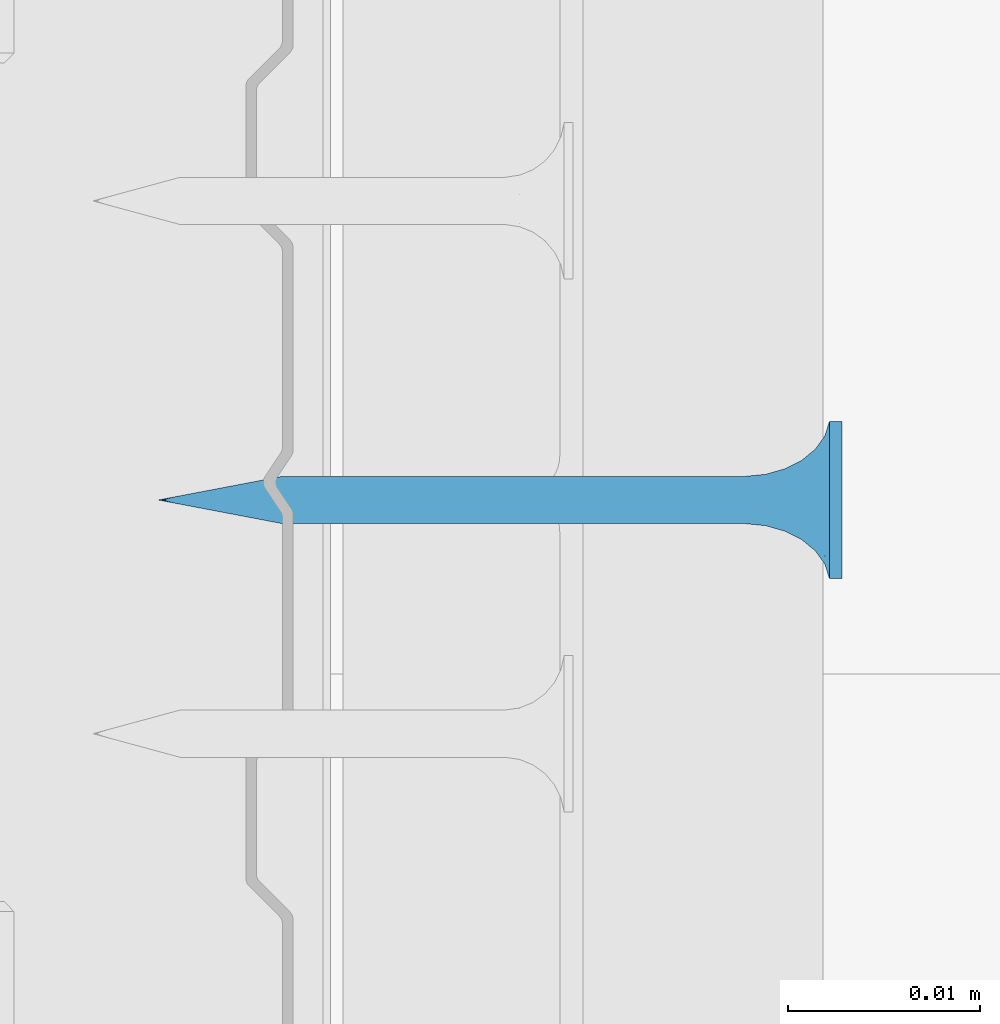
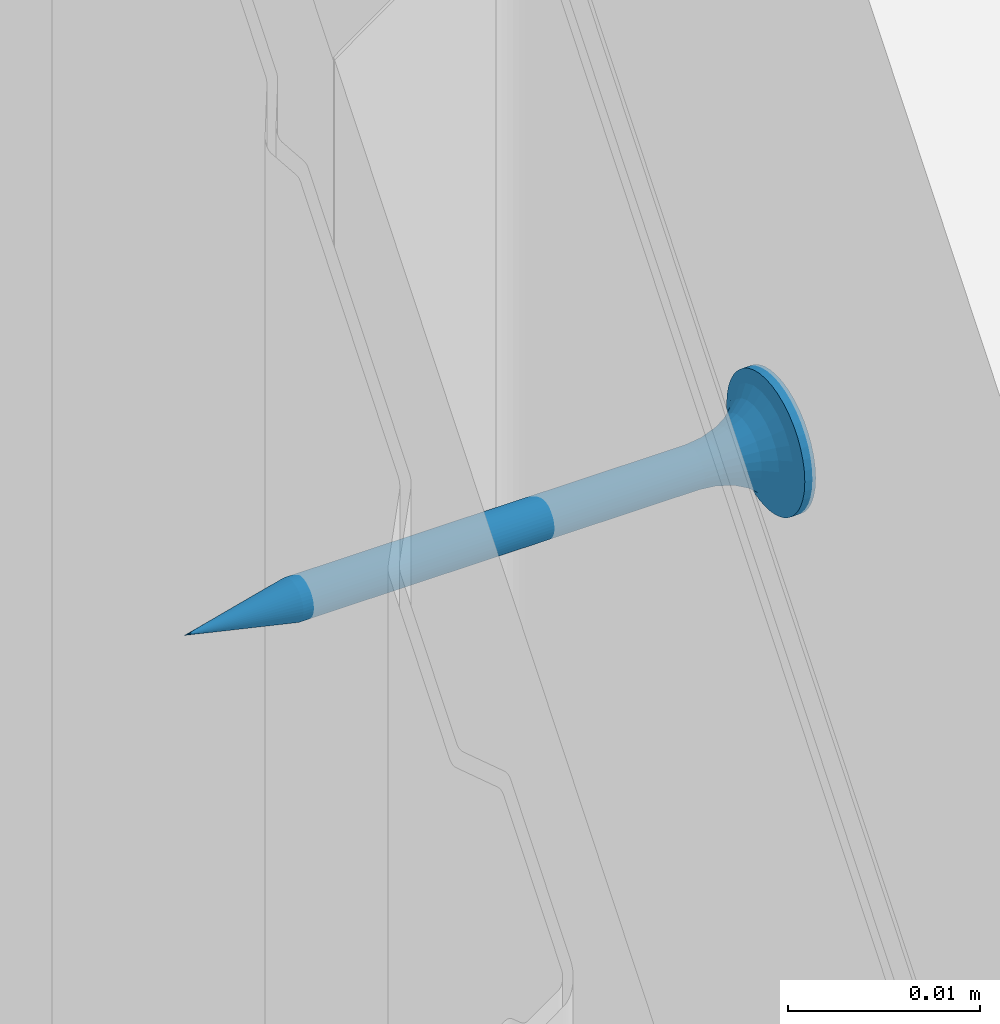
# One storey, part 52 of 62: 1 wall.
"""IFC2X3 building model written with IfcOpenShell, lengths in millimetres."""

from ifc_helpers import new_model, si_unit, frame, origin_with_axes, place, context, subcontext, project, spatial, faceted_brep, material, type_object, element, save


model = new_model("IFC2X3")

# Units and contexts
model_context = context("Model", 3, world=origin_with_axes())
body_context = subcontext(model_context, "Body", "Model", "MODEL_VIEW")
ifc_project = project(units=[si_unit("LENGTHUNIT", "METRE", prefix="MILLI"), si_unit("AREAUNIT", "SQUARE_METRE"), si_unit("VOLUMEUNIT", "CUBIC_METRE")], contexts=[model_context])

# Site, building, storey
site_placement = place(None, frame((2152.14102611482, -2015.0250894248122, 57.61556563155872), z_axis=(0.0, 0.0, 1.0), x_axis=(-1.1102230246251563e-16, 1.0, 0.0)))
site = spatial("IfcSite", under=ifc_project, at=site_placement, Name="Default Site", CompositionType="ELEMENT")
building_placement = place(site_placement, origin_with_axes())
building = spatial("IfcBuilding", under=site, at=building_placement, Name="Default Building", CompositionType="ELEMENT")
storey_placement = place(building_placement, origin_with_axes())
storey = spatial("IfcBuildingStorey", under=building, at=storey_placement, Name="Default Building Storey", CompositionType="ELEMENT", Elevation=57.61556563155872)

# Wall
ifc_material = material(Name="Default")
wall_type = type_object("IfcWallType", Name="Wkręt RIGIPS TN 35#31", PredefinedType="NOTDEFINED")
wall_placement = place(storey_placement, frame((3574.5747826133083, 6748.439791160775, -396.93788946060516), z_axis=(0.0, 0.0, 1.0), x_axis=(1.0, 0.0, 0.0)))
element("IfcWall", 1, at=wall_placement, inside=storey, type_object=wall_type, material=ifc_material, Name="Wkręt RIGIPS TN 35", context=body_context, shape_type="Brep", body=[
    faceted_brep([(-141.48753293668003, -4832.598052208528, 555.1619773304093), (-141.48753293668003, -4833.259714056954, 555.1619773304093), (-141.5377465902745, -4833.259714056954, 555.8000000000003), (-141.5377465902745, -4832.598052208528, 555.8000000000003), (-141.33812900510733, -4832.598052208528, 554.5396649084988), (-141.33812900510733, -4833.259714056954, 554.5396649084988), (-141.09321328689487, -4832.598052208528, 553.948386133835), (-141.09321328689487, -4833.259714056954, 553.948386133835), (-140.75881656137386, -4832.598052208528, 553.4027002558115), (-140.75881656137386, -4833.259714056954, 553.4027002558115), (-140.34317265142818, -4833.259714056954, 552.9160436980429), (-140.45417279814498, -4832.598052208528, 553.0314906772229), (-139.8565160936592, -4833.259714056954, 552.5003997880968), (-140.1080097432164, -4832.598052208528, 552.6986613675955), (-139.72512626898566, -4832.598052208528, 552.4088260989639), (-139.31083021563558, -4833.259714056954, 552.1660030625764), (-139.31083021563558, -4832.598052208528, 552.1660030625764), (-138.71955144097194, -4833.259714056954, 551.9210873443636), (-138.87086516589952, -4832.598052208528, 551.9735585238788), (-138.41133029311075, -4832.598052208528, 551.8341602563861), (-138.0972390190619, -4833.259714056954, 551.7716834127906), (-137.9385961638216, -4832.598052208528, 551.7497405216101), (-137.45921634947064, -4833.259714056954, 551.7214697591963), (-137.45921634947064, -4832.598052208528, 551.7214697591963), (-136.82119367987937, -4832.598052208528, 551.7716834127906), (-136.82119367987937, -4833.259714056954, 551.7716834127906), (-136.19888125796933, -4832.598052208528, 551.9210873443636), (-136.19888125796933, -4833.259714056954, 551.9210873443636), (-135.6076024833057, -4832.598052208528, 552.1660030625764), (-135.6076024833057, -4833.259714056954, 552.1660030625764), (-135.06191660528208, -4832.598052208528, 552.5003997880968), (-135.06191660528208, -4833.259714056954, 552.5003997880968), (-134.57526004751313, -4832.598052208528, 552.9160436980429), (-134.57526004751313, -4833.259714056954, 552.9160436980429), (-134.1596161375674, -4832.598052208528, 553.4027002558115), (-134.1596161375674, -4833.259714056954, 553.4027002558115), (-133.8252194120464, -4832.598052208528, 553.948386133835), (-133.8252194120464, -4833.259714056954, 553.948386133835), (-133.58030369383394, -4832.598052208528, 554.5396649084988), (-133.58030369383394, -4833.259714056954, 554.5396649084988), (-133.3806861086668, -4833.259714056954, 555.8000000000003), (-133.3806861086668, -4832.598052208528, 555.8000000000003), (-133.43089976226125, -4832.598052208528, 556.4380226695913), (-133.43089976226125, -4833.259714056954, 556.4380226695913), (-133.43089976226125, -4833.259714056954, 555.1619773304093), (-133.43089976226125, -4832.598052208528, 555.1619773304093), (-133.58030369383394, -4832.598052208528, 557.0603350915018), (-133.58030369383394, -4833.259714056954, 557.0603350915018), (-133.8252194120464, -4832.598052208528, 557.6516138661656), (-133.8252194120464, -4833.259714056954, 557.6516138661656), (-134.1596161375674, -4832.598052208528, 558.1972997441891), (-134.1596161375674, -4833.259714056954, 558.1972997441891), (-134.57526004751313, -4832.598052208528, 558.6839563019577), (-134.57526004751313, -4833.259714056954, 558.6839563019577), (-135.06191660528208, -4832.598052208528, 559.0996002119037), (-135.06191660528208, -4833.259714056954, 559.0996002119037), (-135.6076024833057, -4832.598052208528, 559.4339969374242), (-135.6076024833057, -4833.259714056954, 559.4339969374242), (-136.19888125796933, -4832.598052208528, 559.678912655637), (-136.19888125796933, -4833.259714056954, 559.678912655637), (-136.82119367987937, -4832.598052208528, 559.82831658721), (-136.82119367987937, -4833.259714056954, 559.82831658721), (-137.45921634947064, -4832.598052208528, 559.8785302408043), (-137.45921634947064, -4833.259714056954, 559.8785302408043), (-138.0972390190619, -4832.598052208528, 559.82831658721), (-138.0972390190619, -4833.259714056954, 559.82831658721), (-138.71955144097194, -4832.598052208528, 559.678912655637), (-138.71955144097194, -4833.259714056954, 559.678912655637), (-139.31083021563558, -4832.598052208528, 559.4339969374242), (-139.31083021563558, -4833.259714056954, 559.4339969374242), (-139.8565160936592, -4832.598052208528, 559.0996002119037), (-139.8565160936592, -4833.259714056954, 559.0996002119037), (-140.34317265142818, -4832.598052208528, 558.6839563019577), (-140.34317265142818, -4833.259714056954, 558.6839563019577), (-140.75881656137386, -4832.598052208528, 558.1972997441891), (-140.75881656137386, -4833.259714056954, 558.1972997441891), (-141.09321328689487, -4832.598052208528, 557.6516138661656), (-141.09321328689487, -4833.259714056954, 557.6516138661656), (-141.33812900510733, -4832.598052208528, 557.0603350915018), (-141.33812900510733, -4833.259714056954, 557.0603350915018), (-141.48753293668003, -4832.598052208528, 556.4380226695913), (-141.48753293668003, -4833.259714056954, 556.4380226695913), (-137.65172779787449, -4828.2062944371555, 554.5845305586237), (-137.45921634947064, -4828.2062944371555, 554.5693795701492), (-137.8060615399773, -4829.281368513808, 554.5055561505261), (-137.45921634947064, -4829.281368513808, 554.4598930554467), (-137.83949898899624, -4828.2062944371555, 554.6296104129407), (-138.12926982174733, -4829.281368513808, 554.6394333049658), (-138.01790634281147, -4828.2062944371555, 554.7035091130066), (-138.1825568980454, -4828.2062944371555, 554.8044072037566), (-138.40681506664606, -4829.281368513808, 554.8524012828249), (-138.3293964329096, -4828.2062944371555, 554.9298199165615), (-138.45480914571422, -4828.2062944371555, 555.0766594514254), (-138.6197830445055, -4829.281368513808, 555.1299465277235), (-138.5557072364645, -4828.2062944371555, 555.2413100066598), (-138.753660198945, -4829.281368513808, 555.4531548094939), (-138.62960593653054, -4828.2062944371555, 555.4197173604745), (-138.67468579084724, -4828.2062944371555, 555.6074885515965), (-138.79932329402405, -4829.281368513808, 555.7999999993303), (-138.68983677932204, -4828.2062944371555, 555.8000000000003), (-138.67468579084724, -4828.2062944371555, 555.9925114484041), (-138.753660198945, -4829.281368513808, 556.1468451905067), (-138.62960593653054, -4828.2062944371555, 556.1802826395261), (-138.6197830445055, -4829.281368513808, 556.4700534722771), (-138.5557072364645, -4828.2062944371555, 556.3586899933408), (-138.45480914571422, -4828.2062944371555, 556.5233405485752), (-138.40681506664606, -4829.281368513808, 556.7475987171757), (-138.3293964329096, -4828.2062944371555, 556.670180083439), (-138.1825568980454, -4828.2062944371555, 556.795592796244), (-138.12926982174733, -4829.281368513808, 556.9605666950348), (-138.01790634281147, -4828.2062944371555, 556.896490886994), (-137.8060615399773, -4829.281368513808, 557.0944438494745), (-137.83949898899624, -4828.2062944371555, 556.9703895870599), (-137.65172779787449, -4828.2062944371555, 557.0154694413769), (-137.45921634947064, -4829.281368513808, 557.1401069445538), (-137.45921634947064, -4828.2062944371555, 557.0306204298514), (-137.26670490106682, -4828.2062944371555, 557.0154694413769), (-137.11237115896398, -4829.281368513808, 557.0944438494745), (-137.07893370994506, -4828.2062944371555, 556.9703895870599), (-136.78916287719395, -4829.281368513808, 556.9605666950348), (-136.9005263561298, -4828.2062944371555, 556.896490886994), (-136.7358758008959, -4828.2062944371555, 556.795592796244), (-136.5116176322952, -4829.281368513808, 556.7475987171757), (-136.58903626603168, -4828.2062944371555, 556.670180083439), (-136.46362355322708, -4828.2062944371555, 556.5233405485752), (-136.2986496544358, -4829.281368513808, 556.4700534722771), (-136.36272546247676, -4828.2062944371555, 556.3586899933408), (-136.16477249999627, -4829.281368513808, 556.1468451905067), (-136.28882676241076, -4828.2062944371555, 556.1802826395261), (-136.24374690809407, -4828.2062944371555, 555.9925114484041), (-136.11910940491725, -4829.281368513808, 555.7999999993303), (-136.22859591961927, -4828.2062944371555, 555.8000000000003), (-136.24374690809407, -4828.2062944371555, 555.6074885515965), (-136.16477249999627, -4829.281368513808, 555.4531548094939), (-136.28882676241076, -4828.2062944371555, 555.4197173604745), (-136.2986496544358, -4829.281368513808, 555.1299465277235), (-136.36272546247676, -4828.2062944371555, 555.2413100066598), (-136.46362355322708, -4828.2062944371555, 555.0766594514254), (-136.5116176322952, -4829.281368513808, 554.8524012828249), (-136.58903626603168, -4828.2062944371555, 554.9298199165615), (-136.7358758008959, -4828.2062944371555, 554.8044072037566), (-136.78916287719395, -4829.281368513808, 554.6394333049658), (-136.9005263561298, -4828.2062944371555, 554.7035091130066), (-137.11237115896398, -4829.281368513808, 554.5055561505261), (-137.07893370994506, -4828.2062944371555, 554.6296104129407), (-137.26670490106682, -4828.2062944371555, 554.5845305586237), (-137.45921634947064, -4830.288222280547, 554.1737111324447), (-137.88013087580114, -4830.288222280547, 554.2291255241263), (-138.2723607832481, -4830.288222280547, 554.3915925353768), (-138.60917621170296, -4830.288222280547, 554.6500401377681), (-138.8676238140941, -4830.288222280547, 554.9868555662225), (-139.03009082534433, -4830.288222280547, 555.37908547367), (-139.08550521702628, -4830.288222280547, 555.7999999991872), (-139.03009082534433, -4830.288222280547, 556.2209145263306), (-138.8676238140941, -4830.288222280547, 556.6131444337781), (-138.60917621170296, -4830.288222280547, 556.9499598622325), (-138.2723607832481, -4830.288222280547, 557.2084074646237), (-137.88013087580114, -4830.288222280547, 557.3708744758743), (-137.45921634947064, -4830.288222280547, 557.4262888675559), (-137.03830182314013, -4830.288222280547, 557.3708744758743), (-136.64607191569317, -4830.288222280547, 557.2084074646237), (-136.30925648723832, -4830.288222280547, 556.9499598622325), (-136.05080888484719, -4830.288222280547, 556.6131444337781), (-135.88834187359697, -4830.288222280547, 556.2209145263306), (-135.832927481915, -4830.288222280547, 555.7999999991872), (-135.88834187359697, -4830.288222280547, 555.37908547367), (-136.05080888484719, -4830.288222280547, 554.9868555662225), (-136.30925648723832, -4830.288222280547, 554.6500401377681), (-136.64607191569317, -4830.288222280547, 554.3915925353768), (-137.03830182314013, -4830.288222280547, 554.2291255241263), (-137.45921634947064, -4831.168773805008, 553.7273430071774), (-137.99565943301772, -4831.168773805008, 553.7979670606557), (-138.49554484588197, -4831.168773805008, 554.0050264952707), (-138.92480608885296, -4831.168773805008, 554.334410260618), (-139.25418985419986, -4831.168773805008, 554.7636715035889), (-139.46124928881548, -4831.168773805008, 555.2635569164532), (-139.53187334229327, -4831.168773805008, 555.7999999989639), (-139.46124928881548, -4831.168773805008, 556.3364430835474), (-139.25418985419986, -4831.168773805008, 556.8363284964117), (-138.92480608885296, -4831.168773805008, 557.2655897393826), (-138.49554484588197, -4831.168773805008, 557.5949735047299), (-137.99565943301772, -4831.168773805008, 557.8020329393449), (-137.45921634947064, -4831.168773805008, 557.8726569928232), (-136.92277326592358, -4831.168773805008, 557.8020329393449), (-136.42288785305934, -4831.168773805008, 557.5949735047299), (-135.9936266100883, -4831.168773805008, 557.2655897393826), (-135.6642428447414, -4831.168773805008, 556.8363284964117), (-135.45718341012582, -4831.168773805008, 556.3364430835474), (-135.386559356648, -4831.168773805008, 555.7999999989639), (-135.45718341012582, -4831.168773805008, 555.2635569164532), (-135.6642428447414, -4831.168773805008, 554.7636715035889), (-135.9936266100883, -4831.168773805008, 554.334410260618), (-136.42288785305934, -4831.168773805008, 554.0050264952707), (-136.92277326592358, -4831.168773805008, 553.7979670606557), (-137.45921634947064, -4831.872222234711, 553.1465392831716), (-138.14598252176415, -4831.872222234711, 553.2369539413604), (-138.78594670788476, -4831.872222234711, 553.5020355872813), (-139.33549641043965, -4831.872222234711, 553.923719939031), (-139.75718076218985, -4831.872222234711, 554.473269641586), (-140.02226240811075, -4831.872222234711, 555.1132338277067), (-140.11267706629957, -4831.872222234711, 555.7999999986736), (-140.02226240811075, -4831.872222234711, 556.4867661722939), (-139.75718076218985, -4831.872222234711, 557.1267303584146), (-139.33549641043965, -4831.872222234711, 557.6762800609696), (-138.78594670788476, -4831.872222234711, 558.0979644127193), (-138.14598252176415, -4831.872222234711, 558.3630460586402), (-137.45921634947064, -4831.872222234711, 558.453460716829), (-136.77245017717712, -4831.872222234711, 558.3630460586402), (-136.13248599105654, -4831.872222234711, 558.0979644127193), (-135.58293628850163, -4831.872222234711, 557.6762800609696), (-135.16125193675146, -4831.872222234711, 557.1267303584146), (-134.89617029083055, -4831.872222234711, 556.4867661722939), (-134.8057556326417, -4831.872222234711, 555.7999999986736), (-134.89617029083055, -4831.872222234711, 555.1132338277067), (-135.16125193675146, -4831.872222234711, 554.473269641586), (-135.58293628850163, -4831.872222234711, 553.923719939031), (-136.13248599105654, -4831.872222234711, 553.5020355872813), (-136.77245017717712, -4831.872222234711, 553.2369539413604), (-137.45921634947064, -4832.357990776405, 552.4648055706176), (-138.3224281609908, -4832.357990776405, 552.5784495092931), (-139.12681356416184, -4832.357990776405, 552.9116369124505), (-139.8175549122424, -4832.357990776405, 553.4416614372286), (-140.34757943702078, -4832.357990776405, 554.132402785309), (-140.680766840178, -4832.357990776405, 554.9367881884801), (-140.79441077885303, -4832.357990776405, 555.7999999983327), (-140.680766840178, -4832.357990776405, 556.6632118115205), (-140.34757943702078, -4832.357990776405, 557.4675972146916), (-139.8175549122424, -4832.357990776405, 558.158338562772), (-139.12681356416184, -4832.357990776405, 558.6883630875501), (-138.3224281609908, -4832.357990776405, 559.0215504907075), (-137.45921634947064, -4832.357990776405, 559.135194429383), (-136.5960045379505, -4832.357990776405, 559.0215504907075), (-135.79161913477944, -4832.357990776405, 558.6883630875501), (-135.10087778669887, -4832.357990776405, 558.158338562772), (-134.5708532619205, -4832.357990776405, 557.4675972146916), (-134.23766585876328, -4832.357990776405, 556.6632118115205), (-134.12402192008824, -4832.357990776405, 555.7999999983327), (-134.23766585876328, -4832.357990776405, 554.9367881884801), (-134.5708532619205, -4832.357990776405, 554.132402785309), (-135.10087778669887, -4832.357990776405, 553.4416614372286), (-135.79161913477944, -4832.357990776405, 552.9116369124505), (-136.5960045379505, -4832.357990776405, 552.5784495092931), (-138.67468579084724, -4804.093757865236, 555.6074885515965), (-138.68983677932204, -4804.093757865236, 555.8000000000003), (-138.62960593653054, -4804.093757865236, 555.4197173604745), (-138.5557072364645, -4804.093757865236, 555.2413100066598), (-138.45480914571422, -4804.093757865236, 555.0766594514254), (-138.3293964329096, -4804.093757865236, 554.9298199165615), (-138.1825568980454, -4804.093757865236, 554.8044072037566), (-138.01790634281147, -4804.093757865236, 554.7035091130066), (-137.83949898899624, -4804.093757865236, 554.6296104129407), (-137.65172779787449, -4804.093757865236, 554.5845305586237), (-137.45921634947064, -4804.093757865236, 554.5693795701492), (-137.26670490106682, -4804.093757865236, 554.5845305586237), (-137.07893370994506, -4804.093757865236, 554.6296104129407), (-136.9005263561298, -4804.093757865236, 554.7035091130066), (-136.7358758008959, -4804.093757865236, 554.8044072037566), (-136.58903626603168, -4804.093757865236, 554.9298199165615), (-136.46362355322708, -4804.093757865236, 555.0766594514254), (-136.36272546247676, -4804.093757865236, 555.2413100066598), (-136.28882676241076, -4804.093757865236, 555.4197173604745), (-136.22859591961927, -4804.093757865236, 555.8000000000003), (-136.24374690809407, -4804.093757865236, 555.9925114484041), (-136.24374690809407, -4804.093757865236, 555.6074885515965), (-136.28882676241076, -4804.093757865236, 556.1802826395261), (-136.36272546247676, -4804.093757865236, 556.3586899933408), (-136.46362355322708, -4804.093757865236, 556.5233405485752), (-136.58903626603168, -4804.093757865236, 556.670180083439), (-136.7358758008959, -4804.093757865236, 556.795592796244), (-136.9005263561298, -4804.093757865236, 556.896490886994), (-137.07893370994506, -4804.093757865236, 556.9703895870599), (-137.26670490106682, -4804.093757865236, 557.0154694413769), (-137.45921634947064, -4804.093757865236, 557.0306204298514), (-137.65172779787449, -4804.093757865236, 557.0154694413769), (-137.83949898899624, -4804.093757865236, 556.9703895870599), (-138.01790634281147, -4804.093757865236, 556.896490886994), (-138.1825568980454, -4804.093757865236, 556.795592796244), (-138.3293964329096, -4804.093757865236, 556.670180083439), (-138.45480914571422, -4804.093757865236, 556.5233405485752), (-138.5557072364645, -4804.093757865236, 556.3586899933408), (-138.62960593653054, -4804.093757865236, 556.1802826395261), (-138.67468579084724, -4804.093757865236, 555.9925114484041), (-137.45921634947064, -4797.627062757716, 555.8000000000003), (-139.95921629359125, -4833.259714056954, 555.2999999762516), (-139.95921629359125, -4833.259714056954, 556.300000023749), (-137.95921637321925, -4833.259714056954, 556.300000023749), (-137.95921637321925, -4833.259714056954, 558.2999999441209), (-136.95921632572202, -4833.259714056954, 558.2999999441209), (-136.95921632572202, -4833.259714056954, 556.300000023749), (-134.95921640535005, -4833.259714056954, 556.300000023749), (-134.95921640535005, -4833.259714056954, 555.2999999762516), (-136.95921632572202, -4833.259714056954, 555.2999999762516), (-136.95921632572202, -4833.259714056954, 553.3000000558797), (-137.95921637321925, -4833.259714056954, 553.3000000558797), (-137.95921637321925, -4833.259714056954, 555.2999999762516), (-136.95921632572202, -4832.888378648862, 558.2999999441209), (-137.95921637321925, -4832.888378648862, 558.2999999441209), (-137.95921637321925, -4832.888378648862, 556.300000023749), (-139.95921629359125, -4832.888378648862, 556.300000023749), (-139.95921629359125, -4832.888378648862, 555.2999999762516), (-137.95921637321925, -4832.888378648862, 555.2999999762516), (-137.95921637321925, -4832.888378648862, 553.3000000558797), (-136.95921632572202, -4832.888378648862, 553.3000000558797), (-136.95921632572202, -4832.888378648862, 555.2999999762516), (-134.95921640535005, -4832.888378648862, 555.2999999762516), (-134.95921640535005, -4832.888378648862, 556.300000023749), (-136.95921632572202, -4832.888378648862, 556.300000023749)], [[[0, 1, 2, 3]], [[1, 0, 4, 5]], [[5, 4, 6, 7]], [[8, 9, 7, 6]], [[8, 10, 9]], [[8, 11, 10]], [[12, 11, 13]], [[12, 10, 11]], [[13, 14, 12]], [[14, 15, 12]], [[14, 16, 15]], [[17, 16, 18]], [[17, 15, 16]], [[18, 19, 17]], [[20, 19, 21]], [[20, 17, 19]], [[21, 22, 20]], [[21, 23, 22]], [[24, 25, 22, 23]], [[25, 24, 26, 27]], [[27, 26, 28, 29]], [[30, 31, 29, 28]], [[31, 30, 32, 33]], [[34, 35, 33, 32]], [[35, 34, 36, 37]], [[37, 36, 38, 39]], [[40, 41, 42, 43]], [[44, 45, 41, 40]], [[45, 44, 39, 38]], [[43, 42, 46, 47]], [[47, 46, 48, 49]], [[50, 51, 49, 48]], [[51, 50, 52, 53]], [[54, 55, 53, 52]], [[55, 54, 56, 57]], [[57, 56, 58, 59]], [[60, 61, 59, 58]], [[61, 60, 62, 63]], [[64, 65, 63, 62]], [[65, 64, 66, 67]], [[67, 66, 68, 69]], [[70, 71, 69, 68]], [[71, 70, 72, 73]], [[74, 75, 73, 72]], [[75, 74, 76, 77]], [[77, 76, 78, 79]], [[80, 81, 79, 78]], [[81, 80, 3, 2]], [[82, 83, 84]], [[83, 85, 84]], [[84, 86, 82]], [[84, 87, 88, 86]], [[89, 88, 87]], [[87, 90, 89]], [[90, 91, 89]], [[92, 91, 93]], [[91, 90, 93]], [[93, 94, 92]], [[93, 95, 96, 94]], [[97, 96, 95]], [[95, 98, 97]], [[98, 99, 97]], [[100, 99, 101]], [[99, 98, 101]], [[101, 102, 100]], [[101, 103, 104, 102]], [[105, 104, 103]], [[103, 106, 105]], [[106, 107, 105]], [[108, 107, 109]], [[107, 106, 109]], [[109, 110, 108]], [[109, 111, 112, 110]], [[113, 112, 111]], [[111, 114, 113]], [[114, 115, 113]], [[116, 115, 117]], [[115, 114, 117]], [[117, 118, 116]], [[117, 119, 120, 118]], [[121, 120, 119]], [[119, 122, 121]], [[122, 123, 121]], [[124, 123, 125]], [[123, 122, 125]], [[125, 126, 124]], [[125, 127, 128, 126]], [[129, 128, 127]], [[127, 130, 129]], [[130, 131, 129]], [[132, 131, 133]], [[131, 130, 133]], [[133, 134, 132]], [[133, 135, 136, 134]], [[137, 136, 135]], [[135, 138, 137]], [[138, 139, 137]], [[140, 139, 141]], [[139, 138, 141]], [[141, 142, 140]], [[141, 143, 144, 142]], [[145, 144, 143]], [[143, 85, 145]], [[85, 83, 145]], [[146, 147, 84, 85]], [[84, 147, 148, 87]], [[87, 148, 149, 90]], [[90, 149, 150, 93]], [[93, 150, 151, 95]], [[95, 151, 152, 98]], [[98, 152, 153, 101]], [[101, 153, 154, 103]], [[103, 154, 155, 106]], [[106, 155, 156, 109]], [[109, 156, 157, 111]], [[111, 157, 158, 114]], [[114, 158, 159, 117]], [[117, 159, 160, 119]], [[119, 160, 161, 122]], [[122, 161, 162, 125]], [[125, 162, 163, 127]], [[127, 163, 164, 130]], [[130, 164, 165, 133]], [[133, 165, 166, 135]], [[135, 166, 167, 138]], [[138, 167, 168, 141]], [[141, 168, 169, 143]], [[143, 169, 146, 85]], [[170, 171, 147, 146]], [[147, 171, 172, 148]], [[148, 172, 173, 149]], [[149, 173, 174, 150]], [[150, 174, 175, 151]], [[151, 175, 176, 152]], [[152, 176, 177, 153]], [[153, 177, 178, 154]], [[154, 178, 179, 155]], [[155, 179, 180, 156]], [[156, 180, 181, 157]], [[157, 181, 182, 158]], [[158, 182, 183, 159]], [[159, 183, 184, 160]], [[160, 184, 185, 161]], [[161, 185, 186, 162]], [[162, 186, 187, 163]], [[163, 187, 188, 164]], [[164, 188, 189, 165]], [[165, 189, 190, 166]], [[166, 190, 191, 167]], [[167, 191, 192, 168]], [[168, 192, 193, 169]], [[169, 193, 170, 146]], [[194, 195, 171, 170]], [[171, 195, 196, 172]], [[172, 196, 197, 173]], [[173, 197, 198, 174]], [[174, 198, 199, 175]], [[175, 199, 200, 176]], [[176, 200, 201, 177]], [[177, 201, 202, 178]], [[178, 202, 203, 179]], [[179, 203, 204, 180]], [[180, 204, 205, 181]], [[181, 205, 206, 182]], [[182, 206, 207, 183]], [[183, 207, 208, 184]], [[184, 208, 209, 185]], [[185, 209, 210, 186]], [[186, 210, 211, 187]], [[187, 211, 212, 188]], [[188, 212, 213, 189]], [[189, 213, 214, 190]], [[190, 214, 215, 191]], [[191, 215, 216, 192]], [[192, 216, 217, 193]], [[193, 217, 194, 170]], [[21, 19, 218]], [[19, 219, 218]], [[218, 23, 21]], [[218, 219, 195, 194]], [[18, 16, 219]], [[16, 220, 219]], [[219, 19, 18]], [[195, 219, 220, 196]], [[13, 11, 221]], [[14, 13, 220]], [[13, 221, 220]], [[220, 16, 14]], [[196, 220, 221, 197]], [[8, 6, 222]], [[222, 221, 8]], [[221, 11, 8]], [[197, 221, 222, 198]], [[4, 223, 222, 6]], [[198, 222, 223, 199]], [[0, 3, 223]], [[3, 224, 223]], [[223, 4, 0]], [[199, 223, 224, 200]], [[80, 78, 225]], [[225, 224, 80]], [[224, 3, 80]], [[200, 224, 225, 201]], [[78, 76, 226, 225]], [[201, 225, 226, 202]], [[74, 72, 226]], [[72, 227, 226]], [[226, 76, 74]], [[202, 226, 227, 203]], [[70, 68, 228]], [[228, 227, 70]], [[227, 72, 70]], [[203, 227, 228, 204]], [[68, 66, 229, 228]], [[204, 228, 229, 205]], [[64, 62, 229]], [[62, 230, 229]], [[229, 66, 64]], [[205, 229, 230, 206]], [[60, 58, 231]], [[231, 230, 60]], [[230, 62, 60]], [[206, 230, 231, 207]], [[58, 56, 232, 231]], [[207, 231, 232, 208]], [[54, 52, 232]], [[52, 233, 232]], [[232, 56, 54]], [[208, 232, 233, 209]], [[50, 48, 234]], [[234, 233, 50]], [[233, 52, 50]], [[209, 233, 234, 210]], [[48, 46, 235, 234]], [[210, 234, 235, 211]], [[42, 41, 235]], [[41, 236, 235]], [[235, 46, 42]], [[211, 235, 236, 212]], [[45, 38, 237]], [[237, 236, 45]], [[236, 41, 45]], [[212, 236, 237, 213]], [[36, 238, 237, 38]], [[213, 237, 238, 214]], [[34, 32, 238]], [[32, 239, 238]], [[238, 36, 34]], [[214, 238, 239, 215]], [[30, 28, 240]], [[240, 239, 30]], [[239, 32, 30]], [[215, 239, 240, 216]], [[26, 241, 240, 28]], [[216, 240, 241, 217]], [[217, 241, 218, 194]], [[24, 23, 241]], [[23, 218, 241]], [[241, 26, 24]], [[242, 97, 99, 243]], [[97, 242, 244, 96]], [[96, 244, 245, 94]], [[246, 92, 94, 245]], [[92, 246, 247, 91]], [[248, 89, 91, 247]], [[89, 248, 249, 88]], [[88, 249, 250, 86]], [[251, 82, 86, 250]], [[82, 251, 252, 83]], [[253, 145, 83, 252]], [[145, 253, 254, 144]], [[144, 254, 255, 142]], [[256, 140, 142, 255]], [[140, 256, 257, 139]], [[258, 137, 139, 257]], [[137, 258, 259, 136]], [[136, 259, 260, 134]], [[131, 261, 262, 129]], [[132, 263, 261, 131]], [[263, 132, 134, 260]], [[129, 262, 264, 128]], [[128, 264, 265, 126]], [[266, 124, 126, 265]], [[124, 266, 267, 123]], [[268, 121, 123, 267]], [[121, 268, 269, 120]], [[120, 269, 270, 118]], [[271, 116, 118, 270]], [[116, 271, 272, 115]], [[273, 113, 115, 272]], [[113, 273, 274, 112]], [[112, 274, 275, 110]], [[276, 108, 110, 275]], [[108, 276, 277, 107]], [[278, 105, 107, 277]], [[105, 278, 279, 104]], [[104, 279, 280, 102]], [[281, 100, 102, 280]], [[100, 281, 243, 99]], [[282, 244, 242]], [[242, 243, 282]], [[282, 245, 244]], [[282, 247, 246]], [[246, 245, 282]], [[282, 249, 248]], [[248, 247, 282]], [[282, 250, 249]], [[282, 252, 251]], [[251, 250, 282]], [[282, 254, 253]], [[253, 252, 282]], [[282, 255, 254]], [[282, 257, 256]], [[256, 255, 282]], [[282, 259, 258]], [[258, 257, 282]], [[282, 260, 259]], [[282, 261, 263]], [[263, 260, 282]], [[282, 264, 262]], [[262, 261, 282]], [[282, 265, 264]], [[282, 267, 266]], [[266, 265, 282]], [[282, 269, 268]], [[268, 267, 282]], [[282, 270, 269]], [[282, 272, 271]], [[271, 270, 282]], [[282, 274, 273]], [[273, 272, 282]], [[282, 275, 274]], [[282, 277, 276]], [[276, 275, 282]], [[282, 279, 278]], [[278, 277, 282]], [[282, 280, 279]], [[282, 243, 281]], [[281, 280, 282]], [[75, 77, 79, 81, 2, 1, 5, 7, 9, 10, 12, 15, 17, 20, 22, 25, 27, 29, 31, 33, 35, 37, 39, 44, 40, 43, 47, 49, 51, 53, 55, 57, 59, 61, 63, 65, 67, 69, 71, 73], [283, 284, 285, 286, 287, 288, 289, 290, 291, 292, 293, 294]], [[295, 296, 297, 298, 299, 300, 301, 302, 303, 304, 305, 306]], [[303, 291, 290, 304]], [[304, 290, 289, 305]], [[305, 289, 288, 306]], [[306, 288, 287, 295]], [[295, 287, 286, 296]], [[296, 286, 285, 297]], [[297, 285, 284, 298]], [[298, 284, 283, 299]], [[299, 283, 294, 300]], [[300, 294, 293, 301]], [[301, 293, 292, 302]], [[302, 292, 291, 303]]]),
])

save(model, "model.ifc")
